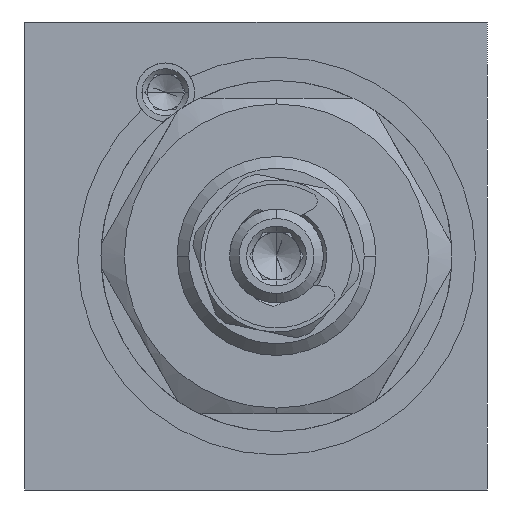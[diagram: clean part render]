
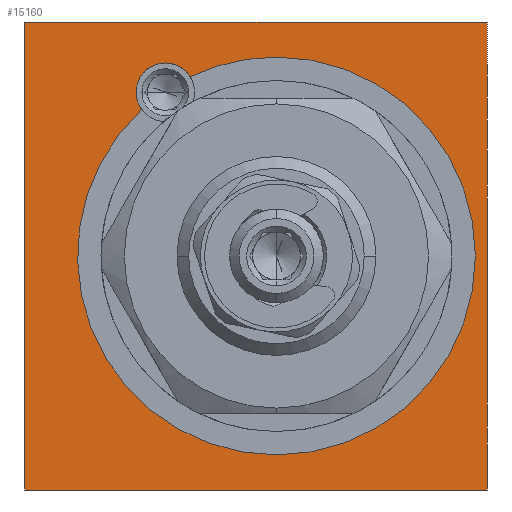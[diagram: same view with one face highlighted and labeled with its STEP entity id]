
A CAD part, left-side view. The second image highlights one B-rep face of the part: STEP entity #15160.
In plain terms, the highlighted planar face has unit normal (-1, 0, 0).
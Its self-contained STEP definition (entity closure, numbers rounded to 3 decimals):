
#166 = ORIENTED_EDGE ( 'NONE', *, *, #15437, .F. ) ;
#474 = EDGE_CURVE ( 'NONE', #5464, #6409, #4915, .T. ) ;
#534 = CARTESIAN_POINT ( 'NONE',  ( 0., 7.75, 14. ) ) ;
#1034 = EDGE_LOOP ( 'NONE', ( #13738, #14734, #8576, #13809, #166 ) ) ;
#1219 = VERTEX_POINT ( 'NONE', #9218 ) ;
#1262 = LINE ( 'NONE', #5085, #7314 ) ;
#1296 = AXIS2_PLACEMENT_3D ( 'NONE', #10819, #10003, #9893 ) ;
#1359 = CARTESIAN_POINT ( 'NONE',  ( 0., -19.75, 20. ) ) ;
#1565 = CIRCLE ( 'NONE', #12654, 2.5 ) ;
#1575 = CARTESIAN_POINT ( 'NONE',  ( 0., -19.75, 20. ) ) ;
#1696 = AXIS2_PLACEMENT_3D ( 'NONE', #13431, #6116, #14632 ) ;
#1733 = VERTEX_POINT ( 'NONE', #1359 ) ;
#1742 = DIRECTION ( 'NONE',  ( 0., 0., 1. ) ) ;
#1787 = DIRECTION ( 'NONE',  ( 0., 0., -1. ) ) ;
#1910 = VERTEX_POINT ( 'NONE', #12304 ) ;
#2748 = ORIENTED_EDGE ( 'NONE', *, *, #11329, .F. ) ;
#2841 = EDGE_CURVE ( 'NONE', #1733, #1910, #4541, .T. ) ;
#3266 = CARTESIAN_POINT ( 'NONE',  ( 0., -1.75, 0. ) ) ;
#3395 = EDGE_LOOP ( 'NONE', ( #12347, #9679, #7192, #2748 ) ) ;
#3505 = CARTESIAN_POINT ( 'NONE',  ( 0., 19.75, 20. ) ) ;
#3967 = DIRECTION ( 'NONE',  ( 0., 1., 0. ) ) ;
#3993 = CARTESIAN_POINT ( 'NONE',  ( 0., -1.75, 17. ) ) ;
#4324 = EDGE_CURVE ( 'NONE', #10849, #9764, #10952, .T. ) ;
#4440 = DIRECTION ( 'NONE',  ( 0., -1., 0. ) ) ;
#4453 = LINE ( 'NONE', #3505, #7337 ) ;
#4463 = DIRECTION ( 'NONE',  ( 0., 0., 1. ) ) ;
#4541 = LINE ( 'NONE', #1575, #11067 ) ;
#4673 = PLANE ( 'NONE',  #11644 ) ;
#4730 = CARTESIAN_POINT ( 'NONE',  ( 0., 19.75, -20. ) ) ;
#4875 = CARTESIAN_POINT ( 'NONE',  ( 0., 7.75, 16.5 ) ) ;
#4915 = CIRCLE ( 'NONE', #1296, 2.5 ) ;
#4958 = FACE_OUTER_BOUND ( 'NONE', #3395, .T. ) ;
#5005 = CARTESIAN_POINT ( 'NONE',  ( 0., -1.75, -17. ) ) ;
#5085 = CARTESIAN_POINT ( 'NONE',  ( 0., -19.75, -20. ) ) ;
#5464 = VERTEX_POINT ( 'NONE', #6131 ) ;
#5893 = AXIS2_PLACEMENT_3D ( 'NONE', #6299, #14813, #7535 ) ;
#5961 = DIRECTION ( 'NONE',  ( 0., 0., 1. ) ) ;
#6116 = DIRECTION ( 'NONE',  ( -1., 0., 0. ) ) ;
#6131 = CARTESIAN_POINT ( 'NONE',  ( 0., 5.625, 15.317 ) ) ;
#6299 = CARTESIAN_POINT ( 'NONE',  ( 0., -1.75, 0. ) ) ;
#6409 = VERTEX_POINT ( 'NONE', #4875 ) ;
#7192 = ORIENTED_EDGE ( 'NONE', *, *, #11653, .F. ) ;
#7223 = AXIS2_PLACEMENT_3D ( 'NONE', #3266, #11806, #4463 ) ;
#7314 = VECTOR ( 'NONE', #3967, 1000. ) ;
#7319 = VERTEX_POINT ( 'NONE', #14563 ) ;
#7337 = VECTOR ( 'NONE', #10843, 1000. ) ;
#7535 = DIRECTION ( 'NONE',  ( 0., 0., 1. ) ) ;
#8233 = FACE_BOUND ( 'NONE', #1034, .T. ) ;
#8235 = EDGE_CURVE ( 'NONE', #1910, #7319, #1262, .T. ) ;
#8475 = LINE ( 'NONE', #12995, #11718 ) ;
#8576 = ORIENTED_EDGE ( 'NONE', *, *, #4324, .F. ) ;
#8747 = CARTESIAN_POINT ( 'NONE',  ( 0., 9.759, 12.512 ) ) ;
#9025 = DIRECTION ( 'NONE',  ( -1., 0., 0. ) ) ;
#9218 = CARTESIAN_POINT ( 'NONE',  ( 0., 19.75, 20. ) ) ;
#9679 = ORIENTED_EDGE ( 'NONE', *, *, #2841, .F. ) ;
#9764 = VERTEX_POINT ( 'NONE', #3993 ) ;
#9893 = DIRECTION ( 'NONE',  ( 0., 0., 1. ) ) ;
#10003 = DIRECTION ( 'NONE',  ( -1., 0., 0. ) ) ;
#10195 = VERTEX_POINT ( 'NONE', #8747 ) ;
#10819 = CARTESIAN_POINT ( 'NONE',  ( 0., 7.75, 14. ) ) ;
#10843 = DIRECTION ( 'NONE',  ( 0., 0., 1. ) ) ;
#10849 = VERTEX_POINT ( 'NONE', #5005 ) ;
#10952 = CIRCLE ( 'NONE', #1696, 17. ) ;
#11067 = VECTOR ( 'NONE', #1787, 1000. ) ;
#11329 = EDGE_CURVE ( 'NONE', #7319, #1219, #4453, .T. ) ;
#11644 = AXIS2_PLACEMENT_3D ( 'NONE', #4730, #13278, #5961 ) ;
#11653 = EDGE_CURVE ( 'NONE', #1219, #1733, #8475, .T. ) ;
#11718 = VECTOR ( 'NONE', #4440, 1000. ) ;
#11806 = DIRECTION ( 'NONE',  ( -1., 0., 0. ) ) ;
#12019 = EDGE_CURVE ( 'NONE', #10195, #10849, #13979, .T. ) ;
#12247 = EDGE_CURVE ( 'NONE', #9764, #5464, #15074, .T. ) ;
#12304 = CARTESIAN_POINT ( 'NONE',  ( 0., -19.75, -20. ) ) ;
#12347 = ORIENTED_EDGE ( 'NONE', *, *, #8235, .F. ) ;
#12654 = AXIS2_PLACEMENT_3D ( 'NONE', #534, #9025, #1742 ) ;
#12995 = CARTESIAN_POINT ( 'NONE',  ( 0., -19.75, 20. ) ) ;
#13278 = DIRECTION ( 'NONE',  ( -1., 0., 0. ) ) ;
#13431 = CARTESIAN_POINT ( 'NONE',  ( 0., -1.75, 0. ) ) ;
#13738 = ORIENTED_EDGE ( 'NONE', *, *, #474, .F. ) ;
#13809 = ORIENTED_EDGE ( 'NONE', *, *, #12019, .F. ) ;
#13979 = CIRCLE ( 'NONE', #5893, 17. ) ;
#14563 = CARTESIAN_POINT ( 'NONE',  ( 0., 19.75, -20. ) ) ;
#14632 = DIRECTION ( 'NONE',  ( 0., 0., 1. ) ) ;
#14734 = ORIENTED_EDGE ( 'NONE', *, *, #12247, .F. ) ;
#14813 = DIRECTION ( 'NONE',  ( -1., 0., 0. ) ) ;
#15074 = CIRCLE ( 'NONE', #7223, 17. ) ;
#15160 = ADVANCED_FACE ( 'NONE', ( #8233, #4958 ), #4673, .T. ) ;
#15437 = EDGE_CURVE ( 'NONE', #6409, #10195, #1565, .T. ) ;
